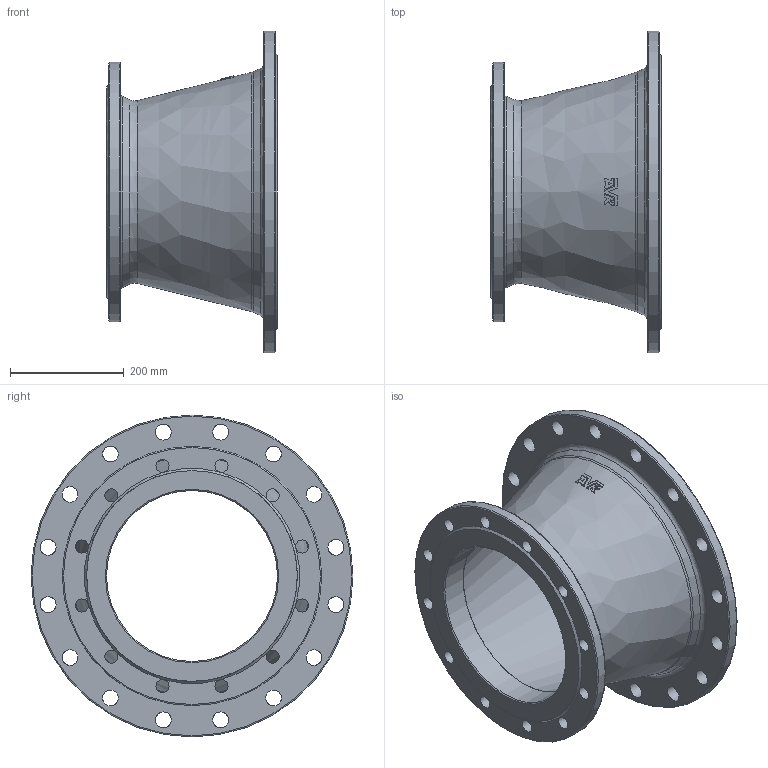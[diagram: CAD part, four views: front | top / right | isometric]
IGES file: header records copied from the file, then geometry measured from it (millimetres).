
Start section: SolidWorks IGES file using analytic representation for surfaces
Global section: file name: \\avksan2\techshare\PBM outline export from Enovia\O_712_2210_DN400_DN300_0X_REV01.igs; native system: SolidWorks 2022; preprocessor: SolidWorks 2022; author: pbm; date: 240808.084226; units: millimetre
Bounding box: 300 x 565 x 565 mm (x, y, z)
Surface area: 1105335 mm2 (no closed solid volume)
Topology: 0 solids, 0 shells, 125 faces, 640 edges, 590 vertices
Faces by surface type: bspline 69, revolution 56
